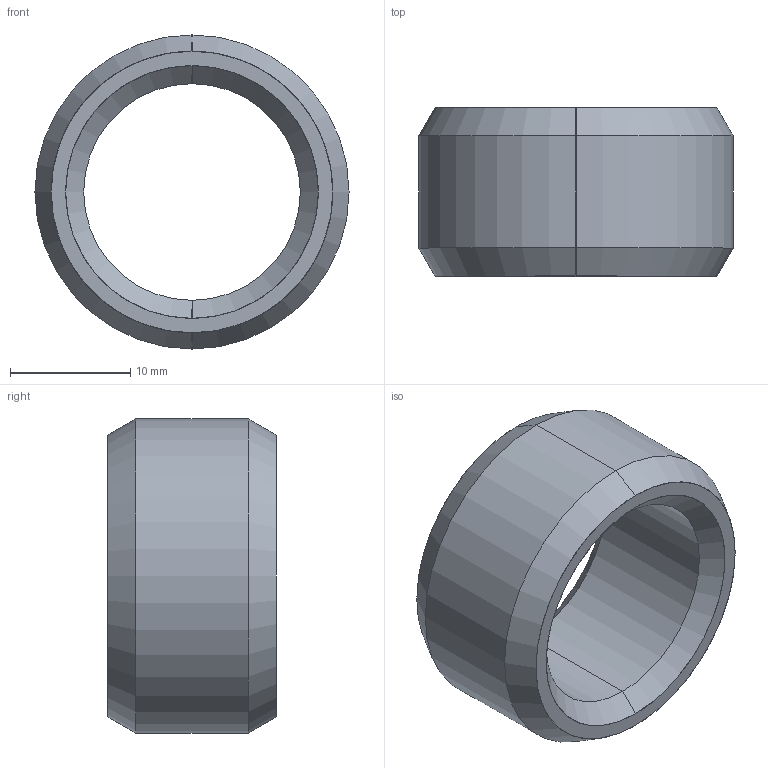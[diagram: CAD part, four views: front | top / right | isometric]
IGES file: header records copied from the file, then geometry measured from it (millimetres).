
Start section: SolidWorks IGES file using analytic representation for surfaces
Global section: file name: K:\Disegni Esecutivi\Accessori\2095\020950001AM00.IGS; native system: SolidWorks 2007; preprocessor: SolidWorks 2007; author: cad02; date: 071019.093535; units: millimetre
Bounding box: 26.1 x 14 x 26.1 mm (x, y, z)
Surface area: 2233.7 mm2 (no closed solid volume)
Topology: 0 solids, 0 shells, 14 faces, 176 edges, 176 vertices
Faces by surface type: revolution 12, bspline 2
